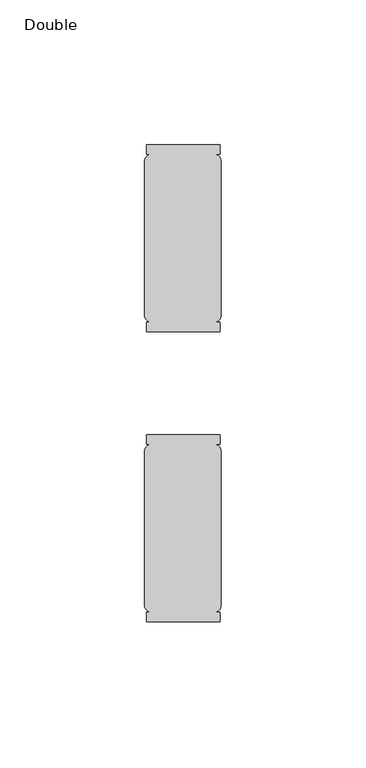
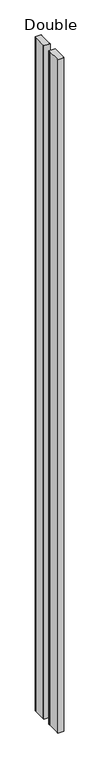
"""IFC4 building model written with IfcOpenShell, lengths in millimetres: furniture geometry, Post-Teknion-FHCPA-Vertical_Post_Package-R2022rfa : Double."""

from ifc_helpers import new_model, si_unit, point, frame, frame_2d, origin, place, context, project, spatial, polyline, circle_curve, trimmed, segment, composite_curve, outline, extrude, source, transform, mapped, element, save


def double_a6d33bca(model_context):
    return source(origin(), model_context, "Body", "SweptSolid", [
        extrude(outline(composite_curve([segment(trimmed(circle_curve(frame_2d((-10.4608087, -28.1771142)), 2.794), [point((-13.1617229, -27.4619229))], [point((-11.176, -25.4762))], False, "CARTESIAN"), True, "CONTINUOUS"), segment(polyline([(-11.176, -25.4762), (-12.5772868, -25.4762), (-12.5772868, -22.3012), (12.8227132, -22.3012), (12.8227132, -25.4762), (11.176, -25.4762)]), True, "CONTINUOUS"), segment(trimmed(circle_curve(frame_2d((10.4608087, -28.1771142)), 2.794), [point((11.176, -25.4762))], [point((13.1617229, -27.4619229))], False, "CARTESIAN"), True, "CONTINUOUS"), segment(polyline([(13.1617229, -27.4619229), (13.1617229, -81.5040771)]), True, "CONTINUOUS"), segment(trimmed(circle_curve(frame_2d((10.4608087, -80.7888858)), 2.794), [point((13.1617229, -81.5040771))], [point((11.176, -83.4898))], False, "CARTESIAN"), True, "CONTINUOUS"), segment(polyline([(11.176, -83.4898), (12.8227132, -83.4898), (12.8227132, -86.6648), (-12.5772868, -86.6648), (-12.5772868, -83.4898), (-11.176, -83.4898)]), True, "CONTINUOUS"), segment(trimmed(circle_curve(frame_2d((-10.4608087, -80.7888858)), 2.794), [point((-11.176, -83.4898))], [point((-13.1617229, -81.5040771))], False, "CARTESIAN"), True, "CONTINUOUS"), segment(polyline([(-13.1617229, -81.5040771), (-13.1617229, -27.4619229)]), True, "CONTINUOUS")], self_intersect=False)), frame((0.0, 0.0, 29.718), z_axis=(0.0, 0.0, 1.0), x_axis=(1.0, 0.0, 0.0)), (0.0, 0.0, 1.0), 2958.735199),
        extrude(outline(composite_curve([segment(polyline([(-13.1617229, 18.5211229), (-13.1617229, 72.5632771)]), True, "CONTINUOUS"), segment(trimmed(circle_curve(frame_2d((-10.4608087, 71.8480858)), 2.794), [point((-13.1617229, 72.5632771))], [point((-11.176, 74.549))], False, "CARTESIAN"), True, "CONTINUOUS"), segment(polyline([(-11.176, 74.549), (-12.5772868, 74.549), (-12.5772868, 77.724), (12.8227132, 77.724), (12.8227132, 74.549), (11.176, 74.549)]), True, "CONTINUOUS"), segment(trimmed(circle_curve(frame_2d((10.4608087, 71.8480858)), 2.794), [point((11.176, 74.549))], [point((13.1617229, 72.5632771))], False, "CARTESIAN"), True, "CONTINUOUS"), segment(polyline([(13.1617229, 72.5632771), (13.1617229, 18.5211229)]), True, "CONTINUOUS"), segment(trimmed(circle_curve(frame_2d((10.4608087, 19.2363142)), 2.794), [point((13.1617229, 18.5211229))], [point((11.176, 16.5354))], False, "CARTESIAN"), True, "CONTINUOUS"), segment(polyline([(11.176, 16.5354), (12.8227132, 16.5354), (12.8227132, 13.3604), (-12.5772868, 13.3604), (-12.5772868, 16.5354), (-11.176, 16.5354)]), True, "CONTINUOUS"), segment(trimmed(circle_curve(frame_2d((-10.4608087, 19.2363142)), 2.794), [point((-11.176, 16.5354))], [point((-13.1617229, 18.5211229))], False, "CARTESIAN"), True, "CONTINUOUS")], self_intersect=False)), frame((0.0, 0.0, 29.718), z_axis=(0.0, 0.0, 1.0), x_axis=(1.0, 0.0, 0.0)), (0.0, 0.0, 1.0), 2958.735199),
    ])


if __name__ == "__main__":
    model = new_model("IFC4")
    model_context = context("Model", 3, world=origin())
    ifc_project = project(units=[si_unit("LENGTHUNIT", "METRE", prefix="MILLI")], contexts=[model_context])
    site = spatial("IfcSite", under=ifc_project)
    building = spatial("IfcBuilding", under=site)
    placement = place(None, origin())
    double_shape = double_a6d33bca(model_context)
    element("IfcFurniture", 1, ObjectType="Post-Teknion-FHCPA-Vertical_Post_Package-R2022rfa : Double", at=placement, inside=building, context=model_context, shape_type="MappedRepresentation", body=[
        mapped(double_shape, transform((0.0, 0.0, 0.0), x_axis=(1.0, 0.0, 0.0), y_axis=(0.0, 1.0, 0.0), z_axis=(0.0, 0.0, 1.0))),
    ])
    save(model, "model.ifc")
